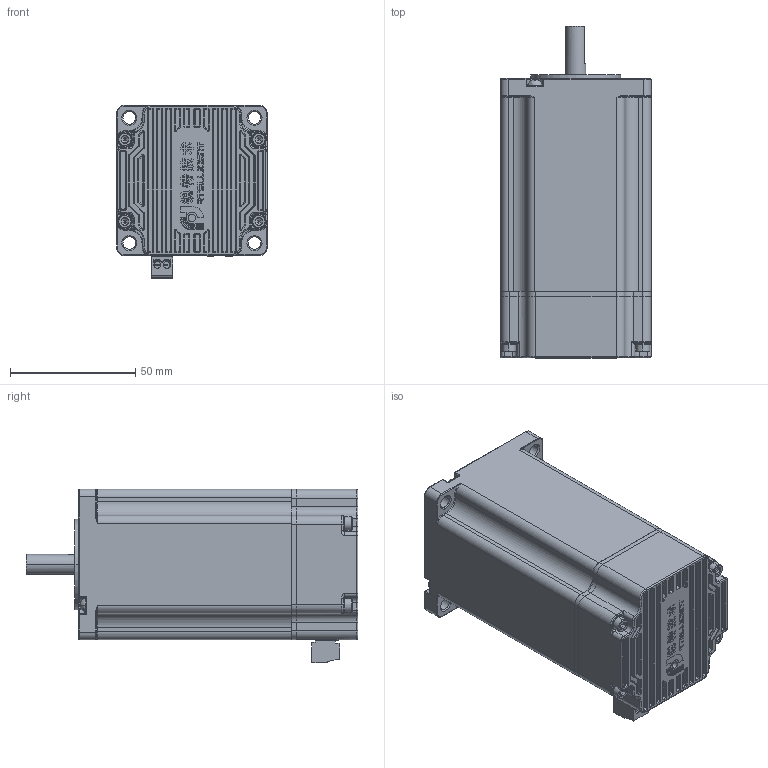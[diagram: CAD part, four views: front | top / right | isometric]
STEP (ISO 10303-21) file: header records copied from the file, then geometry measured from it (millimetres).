
FILE_DESCRIPTION((''),'2;1');
FILE_NAME('PRT0001','2024-08-09T15:54:09',('ruiwe'),(''),'CREO PARAMETRIC BY PTC INC, 2021063','CREO PARAMETRIC BY PTC INC, 2021063','');
FILE_SCHEMA(('CONFIG_CONTROL_DESIGN','SHAPE_APPEARANCE_LAYERS_GROUPS'));
Products named in the file (1): PRT0001
Bounding box: 60.1 x 132.51 x 69.2 mm (x, y, z)
Volume: 116656.6 mm3; surface area: 89526.9 mm2
Topology: 2 solids, 160 shells, 3382 faces, 10101 edges, 6958 vertices
Faces by surface type: plane 1353, cylinder 1163, torus 401, bspline 273, cone 103, sphere 89
Entity records: 174245 total; most frequent: CARTESIAN_POINT 39138, ORIENTED_EDGE 17694, DIRECTION 17636, PRESENTATION_STYLE_ASSIGNMENT 12482, STYLED_ITEM 10235, CURVE_STYLE 10077, EDGE_CURVE 10077, VERTEX_POINT 7034
